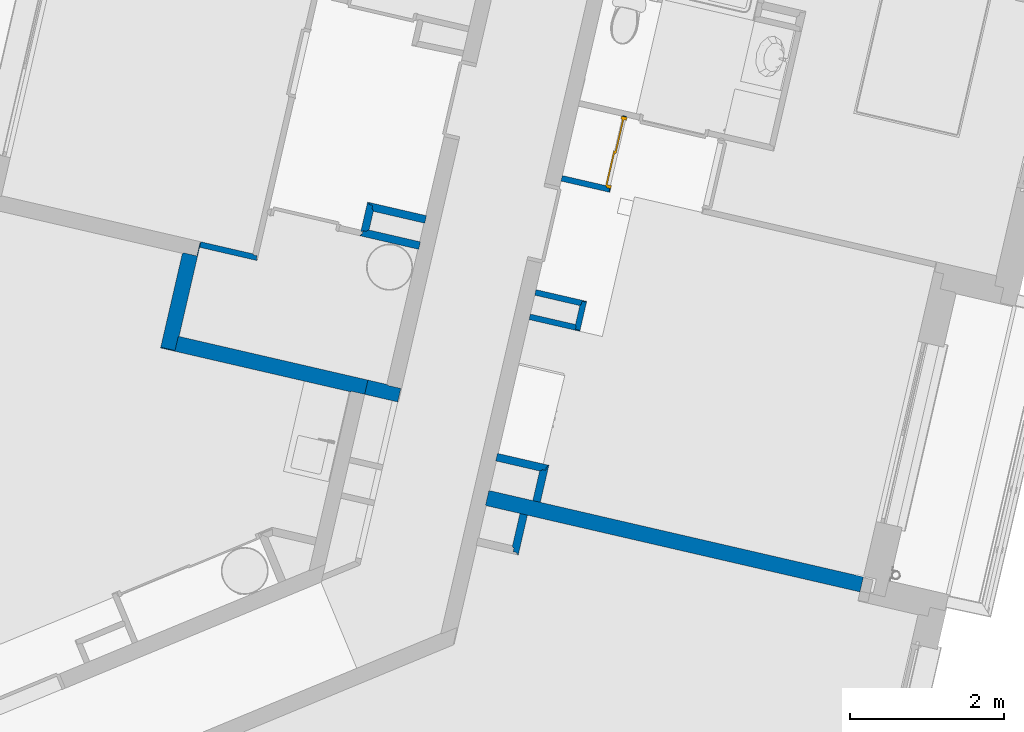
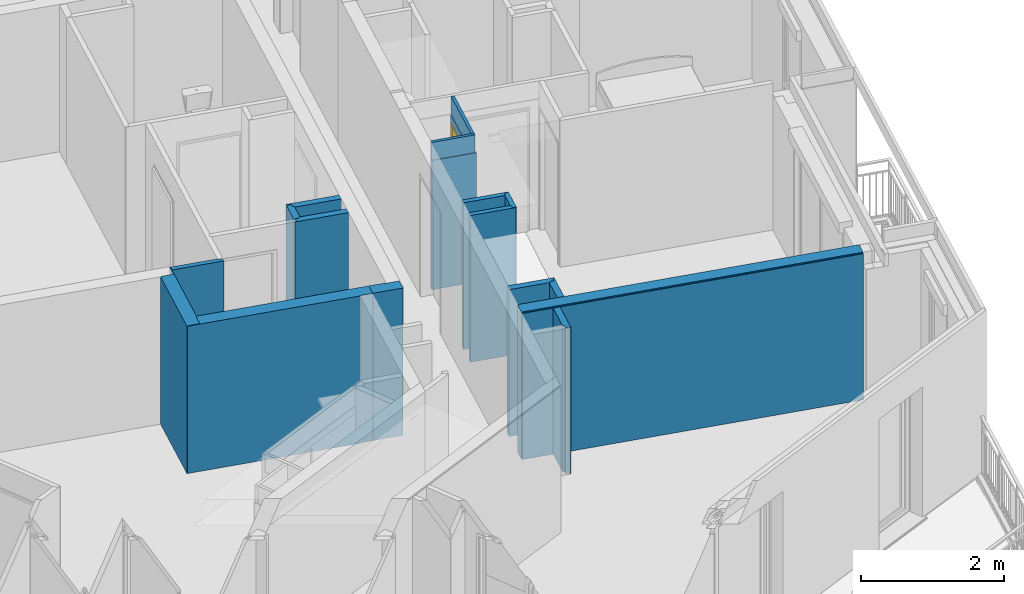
# One storey, part 40 of 91: 16 walls, 1 door, 1 opening.
"""IFC2X3 building model written with IfcOpenShell, lengths in metres."""

from ifc_helpers import new_model, entity, si_unit, converted_unit, derived_unit, money_unit, direction, frame, origin_with_axes, place, context, subcontext, project, spatial, faceted_brep, material, material_list, type_object, element, fill, save


model = new_model("IFC2X3")

# Units and contexts
model_context = context("Model", 3, precision=1e-05, world=origin_with_axes(), true_north=direction((0.0, 1.0)))
body_context = subcontext(model_context, "Body", "Model", "MODEL_VIEW")
ifc_project = project(units=[si_unit("LENGTHUNIT", "METRE"), si_unit("AREAUNIT", "SQUARE_METRE"), si_unit("VOLUMEUNIT", "CUBIC_METRE"), converted_unit("PLANEANGLEUNIT", "DEGREE", entity("IfcPlaneAngleMeasure", 0.0174532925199), si_unit("PLANEANGLEUNIT", "RADIAN"), dimensions=[0, 0, 0, 0, 0, 0, 0]), si_unit("SOLIDANGLEUNIT", "STERADIAN"), money_unit("EUR"), converted_unit("TIMEUNIT", "Year", entity("IfcTimeMeasure", 31556926.0), si_unit("TIMEUNIT", "SECOND"), dimensions=[0, 0, 1, 0, 0, 0, 0]), si_unit("MASSUNIT", "GRAM", prefix="KILO"), si_unit("THERMODYNAMICTEMPERATUREUNIT", "DEGREE_CELSIUS"), si_unit("LUMINOUSINTENSITYUNIT", "LUMEN"), si_unit("ENERGYUNIT", "JOULE", prefix="MEGA"), derived_unit("THERMALCONDUCTANCEUNIT", [(si_unit("POWERUNIT", "WATT"), 1), (si_unit("LENGTHUNIT", "METRE"), -1), (si_unit("THERMODYNAMICTEMPERATUREUNIT", "KELVIN"), -1)]), derived_unit("SPECIFICHEATCAPACITYUNIT", [(si_unit("ENERGYUNIT", "JOULE"), 1), (si_unit("MASSUNIT", "GRAM", prefix="KILO"), -1), (si_unit("THERMODYNAMICTEMPERATUREUNIT", "KELVIN"), -1)]), derived_unit("MASSDENSITYUNIT", [(si_unit("MASSUNIT", "GRAM", prefix="KILO"), 1), (si_unit("VOLUMEUNIT", "CUBIC_METRE"), -1)])], contexts=[model_context])

# Site, building, storey
site_placement = place(None, origin_with_axes())
site = spatial("IfcSite", under=ifc_project, at=site_placement, Name="Site", CompositionType="ELEMENT")
building_placement = place(site_placement, origin_with_axes())
building = spatial("IfcBuilding", under=site, at=building_placement, Name="Bâtiment", CompositionType="ELEMENT")
storey_placement = place(building_placement, frame((0.0, 0.0, 5.44), z_axis=(0.0, 0.0, 1.0), x_axis=(1.0, 0.0, 0.0)))
storey = spatial("IfcBuildingStorey", under=building, at=storey_placement, Name="R+2", CompositionType="ELEMENT", Elevation=5.44)

# Wall, opening, door
ifc_material_1 = material(Name="Finition int - Plaque de plâtre")
ifc_material_2 = material(Name="Isolation - Laine de roche")
ifc_material_list_1 = material_list([ifc_material_1, ifc_material_2, ifc_material_1])
wall_type_1 = type_object("IfcWallType", Name="3 - Cloison 72mm Placostil 74", PredefinedType="USERDEFINED")
wall_1_placement = place(storey_placement, frame((-11.5084989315, -12.6138305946, 0.0), z_axis=(0.0, 0.0, 1.0), x_axis=(0.224876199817, 0.974387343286, 0.0)))
wall_1 = element("IfcWall", 1, at=wall_1_placement, inside=storey, type_object=wall_type_1, material=ifc_material_list_1, Name="Cloison Placostil 72/48", ObjectType="PARTITIONING", context=body_context, shape_type="Brep", body=[
    faceted_brep([(0.0740000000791, 0.061, 2.08), (0.9988339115, 0.061, 2.08), (0.99883391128, 0.061, 2.2), (0.0740000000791, 0.061, 2.2), (0.9988339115, 0.0739999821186, 2.08), (0.0739999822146, 0.0739999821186, 2.08), (0.99883391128, 0.074, 2.2), (0.074000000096, 0.074, 2.2)], [[[0, 1, 2, 3]], [[4, 1, 0, 5]], [[1, 4, 6, 2]], [[7, 3, 2, 6]], [[5, 0, 3, 7]], [[4, 5, 7, 6]]]),
    faceted_brep([(0.9988339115, 0.013, 2.08), (0.9988339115, 0.0130000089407, 0.0), (1.01183391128, 0.013, 0.0), (1.01183391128, 0.013, 2.5), (0.0610000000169, 0.013, 2.5), (0.0610000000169, 0.013, 2.08), (0.9988339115, 0.061, 2.08), (0.9988339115, 0.0610000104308, 0.0), (1.01183391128, 0.061, 0.0), (1.01183391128, 0.061, 2.5), (0.0610000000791, 0.061, 2.5), (0.0610000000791, 0.061, 2.08)], [[[0, 1, 2, 3, 4, 5]], [[1, 0, 6, 7]], [[1, 7, 8, 2]], [[3, 2, 8, 9]], [[4, 3, 9, 10]], [[11, 5, 4, 10]], [[0, 5, 11, 6]], [[6, 11, 10, 9, 8, 7]]]),
    faceted_brep([(0.0490000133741, 0.0, 0.0), (0.0490000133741, 0.0, 2.08), (0.9988339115, 0.0, 2.08), (0.998833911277, 0.0, 2.2), (0.013, 0.0, 2.2), (0.013, 0.0, 0.0), (0.0490000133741, 0.0130000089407, 0.0), (0.0490000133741, 0.013, 2.08), (0.9988339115, 0.013, 2.08), (0.998833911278, 0.013, 2.2), (0.0130000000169, 0.013, 2.2), (0.0130000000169, 0.013, 0.0)], [[[0, 1, 2, 3, 4, 5]], [[1, 0, 6, 7]], [[8, 2, 1, 7]], [[2, 8, 9, 3]], [[10, 4, 3, 9]], [[5, 4, 10, 11]], [[6, 0, 5, 11]], [[7, 6, 11, 10, 9, 8]]]),
])
opening_placement = place(wall_1_placement, frame((0.523916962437, 0.0, 0.0), z_axis=(0.0, 0.0, 1.0), x_axis=(1.0, 0.0, 0.0)))
opening = element("IfcOpeningElement", 2, at=opening_placement, cuts=wall_1, Name="Por-002", context=body_context, shape_type="Brep", body=[
    faceted_brep([(-0.474916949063, 0.074, 0.0), (0.474916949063, 0.074, 0.0), (0.474916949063, -0.074, 0.0), (-0.474916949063, -0.074, 0.0), (-0.474916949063, 0.074, 2.08), (0.474916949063, 0.074, 2.08), (0.474916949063, -0.074, 2.08), (-0.474916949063, -0.074, 2.08)], [[[0, 1, 2, 3]], [[0, 4, 5, 1]], [[1, 5, 6, 2]], [[3, 2, 6, 7]], [[4, 0, 3, 7]], [[5, 4, 7, 6]]]),
])
door_style = type_object("IfcDoorStyle", Name="Porte int générique 2019", ConstructionType="NOTDEFINED", OperationType="USERDEFINED", ParameterTakesPrecedence=False, Sizeable=False)
door_placement = place(opening_placement, frame((-0.434916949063, 0.0, 0.0), z_axis=(0.0, 0.0, 1.0), x_axis=(1.0, 0.0, 0.0)))
door = element("IfcDoor", 3, at=door_placement, inside=storey, type_object=door_style, Name="Por-002", ObjectType="DOOR", OverallHeight=2.04, OverallWidth=0.869834, context=body_context, shape_type="Brep", body=[
    faceted_brep([(-0.04, 0.074, 0.0), (-0.04, 0.074, 2.08), (0.909833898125, 0.074, 2.08), (0.909833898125, 0.074, 0.0), (0.869833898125, 0.074, 0.0), (0.869833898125, 0.074, 2.04), (0.0, 0.074, 2.04), (0.0, 0.074, 0.0), (-0.04, 0.0, 0.0), (-0.04, 0.0, 2.08), (0.909833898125, 0.0, 2.08), (0.909833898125, 0.0, 0.0), (0.869833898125, 0.0, 0.0), (0.869833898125, 0.0, 2.04), (0.0, 0.0, 2.04), (0.0, 0.0, 0.0)], [[[0, 1, 2, 3, 4, 5, 6, 7]], [[8, 9, 1, 0]], [[9, 10, 2, 1]], [[10, 11, 3, 2]], [[3, 11, 12, 4]], [[5, 4, 12, 13]], [[6, 5, 13, 14]], [[7, 6, 14, 15]], [[0, 7, 15, 8]], [[15, 14, 13, 12, 11, 10, 9, 8]]]),
    faceted_brep([(0.0, 0.074, 0.0), (0.449916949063, 0.074, 0.0), (0.449916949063, 0.054, 0.0), (0.0, 0.054, 0.0), (0.0, 0.074, 2.04), (0.449916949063, 0.074, 2.04), (0.449916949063, 0.054, 2.04), (0.0, 0.054, 2.04)], [[[0, 1, 2, 3]], [[0, 4, 5, 1]], [[1, 5, 6, 2]], [[3, 2, 6, 7]], [[4, 0, 3, 7]], [[5, 4, 7, 6]]]),
    faceted_brep([(0.419916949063, 0.054, 0.0), (0.869833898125, 0.054, 0.0), (0.869833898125, 0.034, 0.0), (0.419916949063, 0.034, 0.0), (0.419916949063, 0.054, 2.04), (0.869833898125, 0.054, 2.04), (0.869833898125, 0.034, 2.04), (0.419916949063, 0.034, 2.04)], [[[0, 1, 2, 3]], [[0, 4, 5, 1]], [[1, 5, 6, 2]], [[3, 2, 6, 7]], [[4, 0, 3, 7]], [[5, 4, 7, 6]]]),
])
fill(opening, door)

# Walls
wall_2_placement = place(storey_placement, frame((-11.8090853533, -14.0274421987, 0.0), z_axis=(0.0, 0.0, 1.0), x_axis=(-0.224876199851, -0.974387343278, 0.0)))
element("IfcWall", 4, at=wall_2_placement, inside=storey, type_object=wall_type_1, material=ifc_material_list_1, Name="Cloison Placostil 72/48", ObjectType="PARTITIONING", context=body_context, shape_type="Brep", body=[
    faceted_brep([(0.399009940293, -0.013, 2.5), (0.399009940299, 0.0, 2.5), (0.0, 0.0, 2.5), (0.0, -0.013, 2.5), (0.399009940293, -0.013, 0.0), (0.399009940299, 0.0, 0.0), (0.0, 0.0, 0.0), (0.0, -0.013, 0.0)], [[[0, 1, 2, 3]], [[1, 0, 4, 5]], [[1, 5, 6, 2]], [[7, 3, 2, 6]], [[4, 0, 3, 7]], [[5, 4, 7, 6]]]),
    faceted_brep([(0.38600994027, -0.061, 2.5), (0.386009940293, -0.013, 2.5), (0.012999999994, -0.013, 2.5), (0.0129999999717, -0.061, 2.5), (0.38600994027, -0.061, 0.0), (0.386009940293, -0.013, 0.0), (0.012999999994, -0.013, 0.0), (0.0129999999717, -0.061, 0.0)], [[[0, 1, 2, 3]], [[1, 0, 4, 5]], [[1, 5, 6, 2]], [[7, 3, 2, 6]], [[4, 0, 3, 7]], [[5, 4, 7, 6]]]),
    faceted_brep([(0.338009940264, -0.074, 2.5), (0.33800994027, -0.061, 2.5), (0.0609999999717, -0.061, 2.5), (0.0609999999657, -0.074, 2.5), (0.338009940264, -0.074, 0.0), (0.33800994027, -0.061, 0.0), (0.0609999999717, -0.061, 0.0), (0.0609999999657, -0.074, 0.0)], [[[0, 1, 2, 3]], [[1, 0, 4, 5]], [[1, 5, 6, 2]], [[7, 3, 2, 6]], [[4, 0, 3, 7]], [[5, 4, 7, 6]]]),
])
wall_3_placement = place(storey_placement, frame((-12.46679681, -13.8756507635, 0.0), z_axis=(0.0, 0.0, 1.0), x_axis=(0.974387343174, -0.224876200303, 0.0)))
element("IfcWall", 5, at=wall_3_placement, inside=storey, type_object=wall_type_1, material=ifc_material_list_1, Name="Cloison Placostil 72/48", ObjectType="PARTITIONING", context=body_context, shape_type="Brep", body=[
    faceted_brep([(0.662000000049, -0.013, 2.5), (0.662000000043, 0.0, 2.5), (0.0, 0.0, 2.5), (0.0, -0.013, 2.5), (0.662000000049, -0.013, 0.0), (0.662000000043, 0.0, 0.0), (0.0, 0.0, 0.0), (0.0, -0.013, 0.0)], [[[0, 1, 2, 3]], [[1, 0, 4, 5]], [[1, 5, 6, 2]], [[7, 3, 2, 6]], [[4, 0, 3, 7]], [[5, 4, 7, 6]]]),
    faceted_brep([(0.614000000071, -0.061, 2.5), (0.614000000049, -0.013, 2.5), (0.0, -0.013, 2.5), (0.0, -0.061, 2.5), (0.614000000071, -0.061, 0.0), (0.614000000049, -0.013, 0.0), (0.0, -0.013, 0.0), (0.0, -0.061, 0.0)], [[[0, 1, 2, 3]], [[1, 0, 4, 5]], [[1, 5, 6, 2]], [[7, 3, 2, 6]], [[4, 0, 3, 7]], [[5, 4, 7, 6]]]),
    faceted_brep([(0.601000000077, -0.074, 2.5), (0.601000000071, -0.061, 2.5), (0.0, -0.061, 2.5), (0.0, -0.074, 2.5), (0.601000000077, -0.074, 0.0), (0.601000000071, -0.061, 0.0), (0.0, -0.061, 0.0), (0.0, -0.074, 0.0)], [[[0, 1, 2, 3]], [[1, 0, 4, 5]], [[1, 5, 6, 2]], [[7, 3, 2, 6]], [[4, 0, 3, 7]], [[5, 4, 7, 6]]]),
])
wall_4_placement = place(storey_placement, frame((-12.5398838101, -14.1923363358, 0.0), z_axis=(0.0, 0.0, 1.0), x_axis=(0.974387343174, -0.224876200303, 0.0)))
element("IfcWall", 6, at=wall_4_placement, inside=storey, type_object=wall_type_1, material=ifc_material_list_1, Name="Cloison Placostil 72/48", ObjectType="PARTITIONING", context=body_context, shape_type="Brep", body=[
    faceted_brep([(0.60099999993, -0.013, 2.5), (0.600999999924, 0.0, 2.5), (0.0, 0.0, 2.5), (0.0, -0.013, 2.5), (0.60099999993, -0.013, 0.0), (0.600999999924, 0.0, 0.0), (0.0, 0.0, 0.0), (0.0, -0.013, 0.0)], [[[0, 1, 2, 3]], [[1, 0, 4, 5]], [[1, 5, 6, 2]], [[7, 3, 2, 6]], [[4, 0, 3, 7]], [[5, 4, 7, 6]]]),
    faceted_brep([(0.613999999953, -0.061, 2.5), (0.61399999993, -0.013, 2.5), (0.0, -0.013, 2.5), (0.0, -0.061, 2.5), (0.613999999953, -0.061, 0.0), (0.61399999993, -0.013, 0.0), (0.0, -0.013, 0.0), (0.0, -0.061, 0.0)], [[[0, 1, 2, 3]], [[1, 0, 4, 5]], [[1, 5, 6, 2]], [[7, 3, 2, 6]], [[4, 0, 3, 7]], [[5, 4, 7, 6]]]),
    faceted_brep([(0.661999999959, -0.074, 2.5), (0.661999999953, -0.061, 2.5), (0.0, -0.061, 2.5), (0.0, -0.074, 2.5), (0.661999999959, -0.074, 0.0), (0.661999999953, -0.061, 0.0), (0.0, -0.061, 0.0), (0.0, -0.074, 0.0)], [[[0, 1, 2, 3]], [[1, 0, 4, 5]], [[1, 5, 6, 2]], [[7, 3, 2, 6]], [[4, 0, 3, 7]], [[5, 4, 7, 6]]]),
])
wall_5_placement = place(storey_placement, frame((-12.1418507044, -12.4676610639, 0.0), z_axis=(0.0, 0.0, 1.0), x_axis=(0.974387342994, -0.224876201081, 0.0)))
element("IfcWall", 7, at=wall_5_placement, inside=storey, type_object=wall_type_1, material=ifc_material_list_1, Name="Cloison Placostil 72/48", ObjectType="PARTITIONING", context=body_context, shape_type="Brep", body=[
    faceted_brep([(0.588999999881, 0.061, 2.08), (0.588999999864, 0.074, 2.08), (0.588999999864, 0.074, 2.2), (0.588999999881, 0.061, 2.2), (0.576000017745, 0.0739999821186, 2.08), (0.576000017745, 0.0739999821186, 0.0), (0.0, 0.074, 0.0), (0.0, 0.074, 2.2), (0.0, 0.061, 2.2), (0.58899998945, 0.0610000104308, 0.0), (0.0, 0.061, 0.0)], [[[0, 1, 2, 3]], [[4, 1, 0]], [[4, 5, 6, 7, 2, 1]], [[8, 3, 2, 7]], [[9, 0, 3, 8, 10]], [[0, 9, 5, 4]], [[5, 9, 10, 6]], [[10, 8, 7, 6]]]),
    faceted_brep([(0.636999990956, 0.0490000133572, 0.0), (0.636999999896, 0.0490000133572, 2.08), (0.636999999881, 0.061, 2.08), (0.636999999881, 0.061, 2.5), (0.636999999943, 0.013, 2.5), (0.636999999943, 0.013, 0.0), (0.600999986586, 0.0490000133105, 0.0), (0.600999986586, 0.0490000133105, 2.08), (0.588999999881, 0.061, 2.08), (0.58899998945, 0.0610000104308, 0.0), (0.0, 0.061, 0.0), (0.0, 0.061, 2.5), (0.0, 0.013, 2.5), (0.0, 0.013, 0.0)], [[[0, 1, 2, 3, 4, 5]], [[1, 0, 6, 7]], [[8, 2, 1, 7]], [[8, 9, 10, 11, 3, 2]], [[12, 4, 3, 11]], [[13, 5, 4, 12]], [[6, 0, 5, 13, 10, 9]], [[6, 9, 8, 7]], [[12, 11, 10, 13]]]),
    faceted_brep([(0.0, 0.013, 0.0), (0.0, 0.013, 2.2), (0.649999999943, 0.013, 2.2), (0.649999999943, 0.013, 0.0), (0.0, 0.0, 0.0), (0.0, 0.0, 2.2), (0.64999999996, 0.0, 2.2), (0.64999999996, 0.0, 0.0)], [[[0, 1, 2, 3]], [[4, 5, 1, 0]], [[5, 6, 2, 1]], [[3, 2, 6, 7]], [[0, 3, 7, 4]], [[7, 6, 5, 4]]]),
])
wall_6_placement = place(storey_placement, frame((-16.8139144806, -13.255158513, 0.0), z_axis=(0.0, 0.0, 1.0), x_axis=(0.974387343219, -0.224876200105, 0.0)))
element("IfcWall", 8, at=wall_6_placement, inside=storey, type_object=wall_type_1, material=ifc_material_list_1, Name="Cloison Placostil 72/48", ObjectType="PARTITIONING", context=body_context, shape_type="Brep", body=[
    faceted_brep([(0.704310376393, -0.013, 2.5), (0.704310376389, 0.0, 2.5), (0.0, 0.0, 2.5), (0.0, -0.013, 2.5), (0.704310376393, -0.013, 0.0), (0.704310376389, 0.0, 0.0), (0.0, 0.0, 0.0), (0.0, -0.013, 0.0)], [[[0, 1, 2, 3]], [[1, 0, 4, 5]], [[1, 5, 6, 2]], [[7, 3, 2, 6]], [[4, 0, 3, 7]], [[5, 4, 7, 6]]]),
    faceted_brep([(0.752310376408, -0.061, 2.5), (0.752310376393, -0.013, 2.5), (0.0, -0.013, 2.5), (0.0, -0.061, 2.5), (0.752310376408, -0.061, 0.0), (0.752310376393, -0.013, 0.0), (0.0, -0.013, 0.0), (0.0, -0.061, 0.0)], [[[0, 1, 2, 3]], [[1, 0, 4, 5]], [[1, 5, 6, 2]], [[7, 3, 2, 6]], [[4, 0, 3, 7]], [[5, 4, 7, 6]]]),
    faceted_brep([(0.765310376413, -0.074, 2.5), (0.765310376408, -0.061, 2.5), (0.0, -0.061, 2.5), (0.0, -0.074, 2.5), (0.765310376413, -0.074, 0.0), (0.765310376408, -0.061, 0.0), (0.0, -0.061, 0.0), (0.0, -0.074, 0.0)], [[[0, 1, 2, 3]], [[1, 0, 4, 5]], [[1, 5, 6, 2]], [[7, 3, 2, 6]], [[4, 0, 3, 7]], [[5, 4, 7, 6]]]),
])
ifc_material_3 = material(Name="Finition int - Enduit plâtre")
ifc_material_4 = material(Name="Béton")
ifc_material_list_2 = material_list([ifc_material_3, ifc_material_4, ifc_material_3])
wall_type_2 = type_object("IfcWallType", Name="2 - Murs Béton 18 + Enduit 2 Faces 200", PredefinedType="USERDEFINED")
wall_7_placement = place(storey_placement, frame((-17.3251185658, -14.6252936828, 0.0), z_axis=(0.0, 0.0, 1.0), x_axis=(0.974387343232, -0.224876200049, 0.0)))
element("IfcWall", 9, at=wall_7_placement, inside=storey, type_object=wall_type_2, material=ifc_material_list_2, Name="M_Ext-009", ObjectType="SOLIDWALL", context=body_context, shape_type="Brep", body=[
    faceted_brep([(0.189999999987, 0.19, 2.51), (2.70531037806, 0.19, 2.51), (2.70531037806, 0.19, 0.0), (0.189999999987, 0.19, 0.0), (2.70531037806, 0.18, 2.51), (0.189999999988, 0.18, 2.51), (2.70531037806, 0.18, 0.0), (0.189999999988, 0.18, 0.0)], [[[0, 1, 2, 3]], [[4, 1, 0, 5]], [[1, 4, 6, 2]], [[3, 2, 6, 7]], [[5, 0, 3, 7]], [[4, 5, 7, 6]]]),
    faceted_brep([(0.179999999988, 0.18, 2.51), (2.70531037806, 0.18, 2.51), (2.70531037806, 0.18, 0.0), (0.179999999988, 0.18, 0.0), (2.70531037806, 0.0, 2.51), (0.18, 0.0, 2.51), (2.70531037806, 0.0, 0.0), (0.18, 0.0, 0.0)], [[[0, 1, 2, 3]], [[4, 1, 0, 5]], [[1, 4, 6, 2]], [[3, 2, 6, 7]], [[5, 0, 3, 7]], [[4, 5, 7, 6]]]),
    faceted_brep([(0.0, 0.0, 2.51), (2.52531037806, 0.0, 2.51), (2.52531037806, 0.0, 0.0), (0.0, 0.0, 0.0), (2.52531037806, -0.01, 2.51), (0.0, -0.01, 2.51), (2.52531037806, -0.01, 0.0), (0.0, -0.01, 0.0)], [[[0, 1, 2, 3]], [[4, 1, 0, 5]], [[1, 4, 6, 2]], [[2, 6, 7, 3]], [[5, 0, 3, 7]], [[4, 5, 7, 6]]]),
])
wall_8_placement = place(storey_placement, frame((-17.0012968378, -13.2221759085, 0.0), z_axis=(0.0, 0.0, 1.0), x_axis=(-0.224876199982, -0.974387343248, 0.0)))
element("IfcWall", 10, at=wall_8_placement, inside=storey, type_object=wall_type_2, material=ifc_material_list_2, Name="M_Ext-008", ObjectType="SOLIDWALL", context=body_context, shape_type="Brep", body=[
    faceted_brep([(0.0, 0.18, 2.51), (0.0, 0.19, 2.51), (0.0, 0.19, 0.0), (0.0, 0.18, 0.0), (1.26000000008, 0.19, 2.51), (1.26000000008, 0.18, 2.51), (1.26000000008, 0.19, 0.0), (1.26000000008, 0.18, 0.0)], [[[0, 1, 2, 3]], [[4, 1, 0, 5]], [[1, 4, 6, 2]], [[6, 7, 3, 2]], [[5, 0, 3, 7]], [[4, 5, 7, 6]]]),
    faceted_brep([(0.18, 0.0, 2.51), (0.179999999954, 0.18, 2.51), (0.179999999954, 0.18, 0.0), (0.18, 0.0, 0.0), (1.44000000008, 0.18, 2.51), (1.44000000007, 0.0, 2.51), (1.44000000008, 0.18, 0.0), (1.44000000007, 0.0, 0.0)], [[[0, 1, 2, 3]], [[4, 1, 0, 5]], [[1, 4, 6, 2]], [[6, 7, 3, 2]], [[5, 0, 3, 7]], [[4, 5, 7, 6]]]),
    faceted_brep([(0.190000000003, -0.01, 2.51), (0.19, 0.0, 2.51), (0.19, 0.0, 0.0), (0.190000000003, -0.01, 0.0), (1.45000000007, 0.0, 2.51), (1.45000000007, -0.01, 2.51), (1.45000000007, 0.0, 0.0), (1.45000000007, -0.01, 0.0)], [[[0, 1, 2, 3]], [[4, 1, 0, 5]], [[1, 4, 6, 2]], [[6, 7, 3, 2]], [[5, 0, 3, 7]], [[4, 5, 7, 6]]]),
])
wall_9_placement = place(storey_placement, frame((-13.2964273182, -16.6255258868, 0.0), z_axis=(0.0, 0.0, 1.0), x_axis=(0.974387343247, -0.224876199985, 0.0)))
element("IfcWall", 11, at=wall_9_placement, inside=storey, type_object=wall_type_2, material=ifc_material_list_2, Name="M_Ext-009", ObjectType="SOLIDWALL", context=body_context, shape_type="Brep", body=[
    faceted_brep([(0.189999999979, 0.19, 0.0), (5.16700000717, 0.19, 0.0), (5.16700000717, 0.18, 0.0), (0.189999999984, 0.18, 0.0), (0.189999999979, 0.19, 2.51), (5.16700000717, 0.19, 2.51), (5.16700000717, 0.18, 2.51), (0.189999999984, 0.18, 2.51)], [[[0, 1, 2, 3]], [[4, 5, 1, 0]], [[2, 1, 5, 6]], [[3, 2, 6, 7]], [[4, 0, 3, 7]], [[7, 6, 5, 4]]]),
    faceted_brep([(0.179999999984, 0.18, 0.0), (5.16700000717, 0.18, 0.0), (5.16700000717, 0.0, 0.0), (0.180000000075, 0.0, 0.0), (0.179999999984, 0.18, 2.51), (5.16700000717, 0.18, 2.51), (5.16700000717, 0.0, 2.51), (0.180000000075, 0.0, 2.51)], [[[0, 1, 2, 3]], [[4, 5, 1, 0]], [[2, 1, 5, 6]], [[3, 2, 6, 7]], [[4, 0, 3, 7]], [[7, 6, 5, 4]]]),
    faceted_brep([(0.190000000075, -3.69322776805e-08, 2.49), (5.16700000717, 8.5586055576e-08, 2.49), (5.16700000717, 0.0, 0.0), (0.190000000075, 0.0, 0.0), (5.16700000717, -0.01, 2.49), (0.19000000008, -0.00999999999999, 2.49), (5.16700000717, -0.01, 0.0), (0.19000000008, -0.00999999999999, 0.0)], [[[0, 1, 2, 3]], [[4, 1, 0, 5]], [[1, 4, 6, 2]], [[3, 2, 6, 7]], [[5, 0, 3, 7]], [[4, 5, 7, 6]]]),
])
ifc_material_list_3 = material_list([ifc_material_3, ifc_material_4])
wall_type_3 = type_object("IfcWallType", Name="2 - Murs Béton 18 + Enduit 1 Face 190", PredefinedType="USERDEFINED")
wall_10_placement = place(storey_placement, frame((-14.6890983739, -15.2336536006, 0.0), z_axis=(0.0, 0.0, 1.0), x_axis=(0.974387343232, -0.224876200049, 0.0)))
element("IfcWall", 12, at=wall_10_placement, inside=storey, type_object=wall_type_3, material=ifc_material_list_3, Name="M_Ext-009", ObjectType="SOLIDWALL", context=body_context, shape_type="Brep", body=[
    faceted_brep([(0.0, 0.19, 2.51), (0.260000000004, 0.19, 2.51), (0.260000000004, 0.19, 0.0), (0.0, 0.19, 0.0), (0.260000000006, 0.18, 2.51), (0.0, 0.18, 2.51), (0.260000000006, 0.18, 0.0), (0.0, 0.18, 0.0)], [[[0, 1, 2, 3]], [[4, 1, 0, 5]], [[1, 4, 6, 2]], [[3, 2, 6, 7]], [[5, 0, 3, 7]], [[4, 5, 7, 6]]]),
    faceted_brep([(0.0, 0.18, 2.51), (0.440000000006, 0.18, 2.51), (0.440000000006, 0.18, 0.0), (0.0, 0.18, 0.0), (0.440000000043, 0.0, 2.51), (0.0, 0.0, 2.51), (0.440000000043, 0.0, 0.0), (0.0, 0.0, 0.0)], [[[0, 1, 2, 3]], [[4, 1, 0, 5]], [[1, 4, 6, 2]], [[3, 2, 6, 7]], [[5, 0, 3, 7]], [[4, 5, 7, 6]]]),
])
ifc_material_list_4 = material_list([ifc_material_1, ifc_material_1, ifc_material_2, ifc_material_1, ifc_material_1])
wall_type_4 = type_object("IfcWallType", Name="3 - Cloison Gaine Technique 98mm 100", PredefinedType="USERDEFINED")
wall_11_placement = place(storey_placement, frame((-14.7521737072, -13.1767876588, 0.0), z_axis=(0.0, 0.0, 1.0), x_axis=(0.224876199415, 0.974387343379, 0.0)))
element("IfcWall", 13, at=wall_11_placement, inside=storey, type_object=wall_type_4, material=ifc_material_list_4, Name="Cloison 98 isolée", ObjectType="PARTITIONING", context=body_context, shape_type="Brep", body=[
    faceted_brep([(0.448000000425, -0.013, 2.5), (0.448000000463, 0.0, 2.5), (0.0609999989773, 0.0, 2.5), (0.0609999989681, -0.013, 2.5), (0.448000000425, -0.013, 0.0), (0.448000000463, 0.0, 0.0), (0.0609999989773, 0.0, 0.0), (0.0609999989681, -0.013, 0.0)], [[[0, 1, 2, 3]], [[1, 0, 4, 5]], [[1, 5, 6, 2]], [[7, 3, 2, 6]], [[4, 0, 3, 7]], [[5, 4, 7, 6]]]),
    faceted_brep([(0.435000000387, -0.026, 2.5), (0.435000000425, -0.013, 2.5), (0.0609999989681, -0.013, 2.5), (0.0609999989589, -0.026, 2.5), (0.435000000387, -0.026, 0.0), (0.435000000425, -0.013, 0.0), (0.0609999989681, -0.013, 0.0), (0.0609999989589, -0.026, 0.0)], [[[0, 1, 2, 3]], [[1, 0, 4, 5]], [[1, 5, 6, 2]], [[7, 3, 2, 6]], [[4, 0, 3, 7]], [[5, 4, 7, 6]]]),
    faceted_brep([(0.422000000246, -0.074, 2.5), (0.422000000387, -0.026, 2.5), (0.0740000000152, -0.026, 2.5), (0.0740000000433, -0.074, 2.5), (0.422000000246, -0.074, 0.0), (0.422000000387, -0.026, 0.0), (0.0740000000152, -0.026, 0.0), (0.0740000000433, -0.074, 0.0)], [[[0, 1, 2, 3]], [[1, 0, 4, 5]], [[1, 5, 6, 2]], [[7, 3, 2, 6]], [[4, 0, 3, 7]], [[5, 4, 7, 6]]]),
    faceted_brep([(0.374000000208, -0.087, 2.5), (0.374000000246, -0.074, 2.5), (0.0870000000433, -0.074, 2.5), (0.0870000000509, -0.087, 2.5), (0.374000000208, -0.087, 0.0), (0.374000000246, -0.074, 0.0), (0.0870000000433, -0.074, 0.0), (0.0870000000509, -0.087, 0.0)], [[[0, 1, 2, 3]], [[1, 0, 4, 5]], [[1, 5, 6, 2]], [[7, 3, 2, 6]], [[4, 0, 3, 7]], [[5, 4, 7, 6]]]),
    faceted_brep([(0.36100000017, -0.1, 2.5), (0.361000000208, -0.087, 2.5), (0.100000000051, -0.087, 2.5), (0.100000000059, -0.1, 2.5), (0.36100000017, -0.1, 0.0), (0.361000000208, -0.087, 0.0), (0.100000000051, -0.087, 0.0), (0.100000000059, -0.1, 0.0)], [[[0, 1, 2, 3]], [[1, 0, 4, 5]], [[1, 5, 6, 2]], [[7, 3, 2, 6]], [[4, 0, 3, 7]], [[5, 4, 7, 6]]]),
])
wall_12_placement = place(storey_placement, frame((-13.1651790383, -16.0568278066, 0.0), z_axis=(0.0, 0.0, 1.0), x_axis=(0.974387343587, -0.224876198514, 0.0)))
element("IfcWall", 14, at=wall_12_placement, inside=storey, type_object=wall_type_4, material=ifc_material_list_4, Name="Cloison 98 isolée", ObjectType="PARTITIONING", context=body_context, shape_type="Brep", body=[
    faceted_brep([(0.190000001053, 0.1, 2.2), (0.790026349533, 0.1, 2.2), (0.790026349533, 0.1, 2.5), (0.864999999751, 0.1, 2.5), (0.864999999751, 0.1, 0.0), (0.18000000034, 0.1, 0.0), (0.18000000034, 0.1, 2.5), (0.190000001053, 0.1, 2.5), (0.19000000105, 0.098000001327, 2.2), (0.789999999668, 0.0980000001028, 2.2), (0.789999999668, 0.0980000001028, 2.5), (0.19000000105, 0.098000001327, 2.5), (0.180000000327, 0.087, 2.5), (0.864999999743, 0.087, 2.5), (0.864999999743, 0.087, 0.0), (0.180000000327, 0.087, 0.0)], [[[0, 1, 2, 3, 4, 5, 6, 7]], [[1, 0, 8, 9]], [[10, 2, 1, 9]], [[11, 7, 6, 12, 13, 3, 2, 10]], [[14, 4, 3, 13]], [[4, 14, 15, 5]], [[6, 5, 15, 12]], [[0, 7, 11, 8]], [[11, 10, 9, 8]], [[14, 13, 12, 15]]]),
    faceted_brep([(0.851999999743, 0.087, 0.0), (0.851999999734, 0.074, 0.0), (0.180000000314, 0.074, 0.0), (0.180000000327, 0.087, 0.0), (0.851999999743, 0.087, 2.5), (0.851999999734, 0.074, 2.5), (0.180000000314, 0.074, 2.5), (0.180000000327, 0.087, 2.5)], [[[0, 1, 2, 3]], [[1, 0, 4, 5]], [[1, 5, 6, 2]], [[7, 3, 2, 6]], [[4, 0, 3, 7]], [[5, 4, 7, 6]]]),
    faceted_brep([(0.838999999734, 0.074, 0.0), (0.838999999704, 0.026, 0.0), (0.180000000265, 0.026, 0.0), (0.180000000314, 0.074, 0.0), (0.838999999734, 0.074, 2.5), (0.838999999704, 0.026, 2.5), (0.180000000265, 0.026, 2.5), (0.180000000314, 0.074, 2.5)], [[[0, 1, 2, 3]], [[1, 0, 4, 5]], [[1, 5, 6, 2]], [[7, 3, 2, 6]], [[4, 0, 3, 7]], [[5, 4, 7, 6]]]),
    faceted_brep([(0.790999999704, 0.026, 0.0), (0.790999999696, 0.013, 0.0), (0.180000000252, 0.013, 0.0), (0.180000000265, 0.026, 0.0), (0.790999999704, 0.026, 2.5), (0.790999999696, 0.013, 2.5), (0.180000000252, 0.013, 2.5), (0.180000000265, 0.026, 2.5)], [[[0, 1, 2, 3]], [[1, 0, 4, 5]], [[1, 5, 6, 2]], [[7, 3, 2, 6]], [[4, 0, 3, 7]], [[5, 4, 7, 6]]]),
    faceted_brep([(0.777999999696, 0.013, 0.0), (0.777999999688, 0.0, 0.0), (0.180000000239, 0.0, 0.0), (0.180000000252, 0.013, 0.0), (0.777999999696, 0.013, 2.5), (0.777999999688, 0.0, 2.5), (0.180000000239, 0.0, 2.5), (0.180000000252, 0.013, 2.5)], [[[0, 1, 2, 3]], [[1, 0, 4, 5]], [[1, 5, 6, 2]], [[7, 3, 2, 6]], [[4, 0, 3, 7]], [[5, 4, 7, 6]]]),
])
wall_13_placement = place(storey_placement, frame((-13.8128643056, -13.3935683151, 0.0), z_axis=(0.0, 0.0, 1.0), x_axis=(-0.97438734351, 0.224876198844, 0.0)))
element("IfcWall", 15, at=wall_13_placement, inside=storey, type_object=wall_type_4, material=ifc_material_list_4, Name="Cloison 98 isolée", ObjectType="PARTITIONING", context=body_context, shape_type="Brep", body=[
    faceted_brep([(0.964000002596, -0.013, 2.5), (0.964000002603, 0.0, 2.5), (0.179999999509, 0.0, 2.5), (0.179999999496, -0.013, 2.5), (0.964000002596, -0.013, 0.0), (0.964000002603, 0.0, 0.0), (0.179999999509, 0.0, 0.0), (0.179999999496, -0.013, 0.0)], [[[0, 1, 2, 3]], [[1, 0, 4, 5]], [[1, 5, 6, 2]], [[7, 3, 2, 6]], [[4, 0, 3, 7]], [[5, 4, 7, 6]]]),
    faceted_brep([(0.951000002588, -0.026, 2.5), (0.951000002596, -0.013, 2.5), (0.179999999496, -0.013, 2.5), (0.179999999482, -0.026, 2.5), (0.951000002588, -0.026, 0.0), (0.951000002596, -0.013, 0.0), (0.179999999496, -0.013, 0.0), (0.179999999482, -0.026, 0.0)], [[[0, 1, 2, 3]], [[1, 0, 4, 5]], [[1, 5, 6, 2]], [[7, 3, 2, 6]], [[4, 0, 3, 7]], [[5, 4, 7, 6]]]),
    faceted_brep([(0.93800000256, -0.074, 2.5), (0.938000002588, -0.026, 2.5), (0.179999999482, -0.026, 2.5), (0.179999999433, -0.074, 2.5), (0.93800000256, -0.074, 0.0), (0.938000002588, -0.026, 0.0), (0.179999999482, -0.026, 0.0), (0.179999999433, -0.074, 0.0)], [[[0, 1, 2, 3]], [[1, 0, 4, 5]], [[1, 5, 6, 2]], [[7, 3, 2, 6]], [[4, 0, 3, 7]], [[5, 4, 7, 6]]]),
    faceted_brep([(0.890000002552, -0.087, 2.5), (0.89000000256, -0.074, 2.5), (0.179999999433, -0.074, 2.5), (0.179999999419, -0.087, 2.5), (0.890000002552, -0.087, 0.0), (0.89000000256, -0.074, 0.0), (0.179999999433, -0.074, 0.0), (0.179999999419, -0.087, 0.0)], [[[0, 1, 2, 3]], [[1, 0, 4, 5]], [[1, 5, 6, 2]], [[7, 3, 2, 6]], [[4, 0, 3, 7]], [[5, 4, 7, 6]]]),
    faceted_brep([(0.877000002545, -0.1, 2.5), (0.877000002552, -0.087, 2.5), (0.179999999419, -0.087, 2.5), (0.179999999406, -0.1, 2.5), (0.877000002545, -0.1, 0.0), (0.877000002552, -0.087, 0.0), (0.179999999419, -0.087, 0.0), (0.179999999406, -0.1, 0.0)], [[[0, 1, 2, 3]], [[1, 0, 4, 5]], [[1, 5, 6, 2]], [[7, 3, 2, 6]], [[4, 0, 3, 7]], [[5, 4, 7, 6]]]),
])
wall_14_placement = place(storey_placement, frame((-13.7121197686, -12.9570427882, 0.0), z_axis=(0.0, 0.0, 1.0), x_axis=(-0.974387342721, 0.224876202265, 0.0)))
element("IfcWall", 16, at=wall_14_placement, inside=storey, type_object=wall_type_4, material=ifc_material_list_4, Name="Cloison 98 isolée", ObjectType="PARTITIONING", context=body_context, shape_type="Brep", body=[
    faceted_brep([(0.864000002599, 0.1, 0.0), (0.864000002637, 0.087, 0.0), (0.179999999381, 0.087, 0.0), (0.179999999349, 0.1, 0.0), (0.864000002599, 0.1, 2.5), (0.864000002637, 0.087, 2.5), (0.179999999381, 0.087, 2.5), (0.179999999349, 0.1, 2.5)], [[[0, 1, 2, 3]], [[1, 0, 4, 5]], [[1, 5, 6, 2]], [[7, 3, 2, 6]], [[4, 0, 3, 7]], [[5, 4, 7, 6]]]),
    faceted_brep([(0.877000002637, 0.087, 0.0), (0.877000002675, 0.074, 0.0), (0.179999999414, 0.074, 0.0), (0.179999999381, 0.087, 0.0), (0.877000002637, 0.087, 2.5), (0.877000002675, 0.074, 2.5), (0.179999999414, 0.074, 2.5), (0.179999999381, 0.087, 2.5)], [[[0, 1, 2, 3]], [[1, 0, 4, 5]], [[1, 5, 6, 2]], [[7, 3, 2, 6]], [[4, 0, 3, 7]], [[5, 4, 7, 6]]]),
    faceted_brep([(0.890000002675, 0.074, 0.0), (0.890000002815, 0.026, 0.0), (0.179999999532, 0.026, 0.0), (0.179999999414, 0.074, 0.0), (0.890000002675, 0.074, 2.5), (0.890000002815, 0.026, 2.5), (0.179999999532, 0.026, 2.5), (0.179999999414, 0.074, 2.5)], [[[0, 1, 2, 3]], [[1, 0, 4, 5]], [[1, 5, 6, 2]], [[7, 3, 2, 6]], [[4, 0, 3, 7]], [[5, 4, 7, 6]]]),
    faceted_brep([(0.938000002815, 0.026, 0.0), (0.938000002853, 0.013, 0.0), (0.179999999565, 0.013, 0.0), (0.179999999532, 0.026, 0.0), (0.938000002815, 0.026, 2.5), (0.938000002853, 0.013, 2.5), (0.179999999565, 0.013, 2.5), (0.179999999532, 0.026, 2.5)], [[[0, 1, 2, 3]], [[1, 0, 4, 5]], [[1, 5, 6, 2]], [[7, 3, 2, 6]], [[4, 0, 3, 7]], [[5, 4, 7, 6]]]),
    faceted_brep([(0.951000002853, 0.013, 0.0), (0.951000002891, 0.0, 0.0), (0.179999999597, 0.0, 0.0), (0.179999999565, 0.013, 0.0), (0.951000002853, 0.013, 2.5), (0.951000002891, 0.0, 2.5), (0.179999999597, 0.0, 2.5), (0.179999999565, 0.013, 2.5)], [[[0, 1, 2, 3]], [[1, 0, 4, 5]], [[1, 5, 6, 2]], [[7, 3, 2, 6]], [[4, 0, 3, 7]], [[5, 4, 7, 6]]]),
])
wall_15_placement = place(storey_placement, frame((-12.5776294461, -16.8016781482, 0.0), z_axis=(0.0, 0.0, 1.0), x_axis=(-0.224876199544, -0.974387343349, 0.0)))
element("IfcWall", 17, at=wall_15_placement, inside=storey, type_object=wall_type_4, material=ifc_material_list_4, Name="Cloison 98 isolée", ObjectType="PARTITIONING", context=body_context, shape_type="Brep", body=[
    faceted_brep([(0.0, -0.013, 2.49), (0.0, 0.0, 2.49), (0.0, 0.0, 0.0), (0.0, -0.013, 0.0), (0.530000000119, 0.0, 2.49), (0.530000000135, -0.013, 2.49), (0.530000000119, 0.0, 0.0), (0.530000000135, -0.013, 0.0)], [[[0, 1, 2, 3]], [[4, 1, 0, 5]], [[1, 4, 6, 2]], [[6, 7, 3, 2]], [[5, 0, 3, 7]], [[4, 5, 7, 6]]]),
    faceted_brep([(0.0, -0.026, 2.49), (0.0, -0.013, 2.49), (0.0, -0.013, 0.0), (0.0, -0.026, 0.0), (0.517000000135, -0.013, 2.49), (0.517000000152, -0.026, 2.49), (0.517000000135, -0.013, 0.0), (0.517000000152, -0.026, 0.0)], [[[0, 1, 2, 3]], [[4, 1, 0, 5]], [[1, 4, 6, 2]], [[6, 7, 3, 2]], [[5, 0, 3, 7]], [[4, 5, 7, 6]]]),
    faceted_brep([(0.0, -0.074, 2.49), (0.0, -0.026, 2.49), (0.0, -0.026, 0.0), (0.0, -0.074, 0.0), (0.504000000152, -0.026, 2.49), (0.504000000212, -0.074, 2.49), (0.504000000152, -0.026, 0.0), (0.504000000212, -0.074, 0.0)], [[[0, 1, 2, 3]], [[4, 1, 0, 5]], [[1, 4, 6, 2]], [[6, 7, 3, 2]], [[5, 0, 3, 7]], [[4, 5, 7, 6]]]),
    faceted_brep([(0.0, -0.087, 2.49), (0.0, -0.074, 2.49), (0.0, -0.074, 0.0), (0.0, -0.087, 0.0), (0.456000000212, -0.074, 2.49), (0.456000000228, -0.087, 2.49), (0.456000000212, -0.074, 0.0), (0.456000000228, -0.087, 0.0)], [[[0, 1, 2, 3]], [[4, 1, 0, 5]], [[1, 4, 6, 2]], [[6, 7, 3, 2]], [[5, 0, 3, 7]], [[4, 5, 7, 6]]]),
    faceted_brep([(0.0, -0.1, 2.49), (0.0, -0.087, 2.49), (0.0, -0.087, 0.0), (0.0, -0.1, 0.0), (0.443000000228, -0.087, 2.49), (0.443000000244, -0.1, 2.49), (0.443000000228, -0.087, 0.0), (0.443000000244, -0.1, 0.0)], [[[0, 1, 2, 3]], [[4, 1, 0, 5]], [[1, 4, 6, 2]], [[6, 7, 3, 2]], [[5, 0, 3, 7]], [[4, 5, 7, 6]]]),
])
wall_16_placement = place(storey_placement, frame((-12.4108557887, -16.6349102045, 0.0), z_axis=(0.0, 0.0, 1.0), x_axis=(0.224876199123, 0.974387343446, 0.0)))
element("IfcWall", 18, at=wall_16_placement, inside=storey, type_object=wall_type_4, material=ifc_material_list_4, Name="Cloison 98 isolée", ObjectType="PARTITIONING", context=body_context, shape_type="Brep", body=[
    faceted_brep([(0.393646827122, 0.1, 0.0), (0.39364682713, 0.087, 0.0), (0.0, 0.087, 0.0), (0.0, 0.1, 0.0), (0.393646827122, 0.1, 2.5), (0.39364682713, 0.087, 2.5), (0.0, 0.087, 2.5), (0.0, 0.1, 2.5)], [[[0, 1, 2, 3]], [[1, 0, 4, 5]], [[1, 5, 6, 2]], [[7, 3, 2, 6]], [[4, 0, 3, 7]], [[5, 4, 7, 6]]]),
    faceted_brep([(0.40664682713, 0.087, 0.0), (0.406646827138, 0.074, 0.0), (0.0, 0.074, 0.0), (0.0, 0.087, 0.0), (0.40664682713, 0.087, 2.5), (0.406646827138, 0.074, 2.5), (0.0, 0.074, 2.5), (0.0, 0.087, 2.5)], [[[0, 1, 2, 3]], [[1, 0, 4, 5]], [[1, 5, 6, 2]], [[7, 3, 2, 6]], [[4, 0, 3, 7]], [[5, 4, 7, 6]]]),
    faceted_brep([(0.419646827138, 0.074, 0.0), (0.419646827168, 0.026, 0.0), (0.0, 0.026, 0.0), (0.0, 0.074, 0.0), (0.419646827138, 0.074, 2.5), (0.419646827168, 0.026, 2.5), (0.0, 0.026, 2.5), (0.0, 0.074, 2.5)], [[[0, 1, 2, 3]], [[1, 0, 4, 5]], [[1, 5, 6, 2]], [[7, 3, 2, 6]], [[4, 0, 3, 7]], [[5, 4, 7, 6]]]),
    faceted_brep([(0.467646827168, 0.026, 0.0), (0.467646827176, 0.013, 0.0), (0.0, 0.013, 0.0), (0.0, 0.026, 0.0), (0.467646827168, 0.026, 2.5), (0.467646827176, 0.013, 2.5), (0.0, 0.013, 2.5), (0.0, 0.026, 2.5)], [[[0, 1, 2, 3]], [[1, 0, 4, 5]], [[1, 5, 6, 2]], [[7, 3, 2, 6]], [[4, 0, 3, 7]], [[5, 4, 7, 6]]]),
    faceted_brep([(0.480646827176, 0.013, 0.0), (0.480646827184, 0.0, 0.0), (0.0, 0.0, 0.0), (0.0, 0.013, 0.0), (0.480646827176, 0.013, 2.5), (0.480646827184, 0.0, 2.5), (0.0, 0.0, 2.5), (0.0, 0.013, 2.5)], [[[0, 1, 2, 3]], [[1, 0, 4, 5]], [[1, 5, 6, 2]], [[7, 3, 2, 6]], [[4, 0, 3, 7]], [[5, 4, 7, 6]]]),
])

save(model, "model.ifc")
